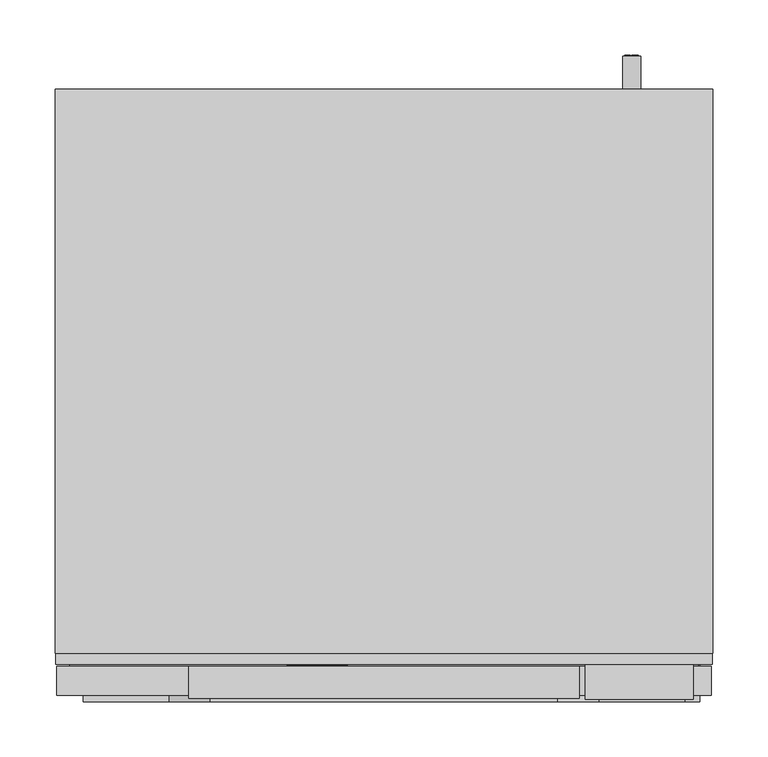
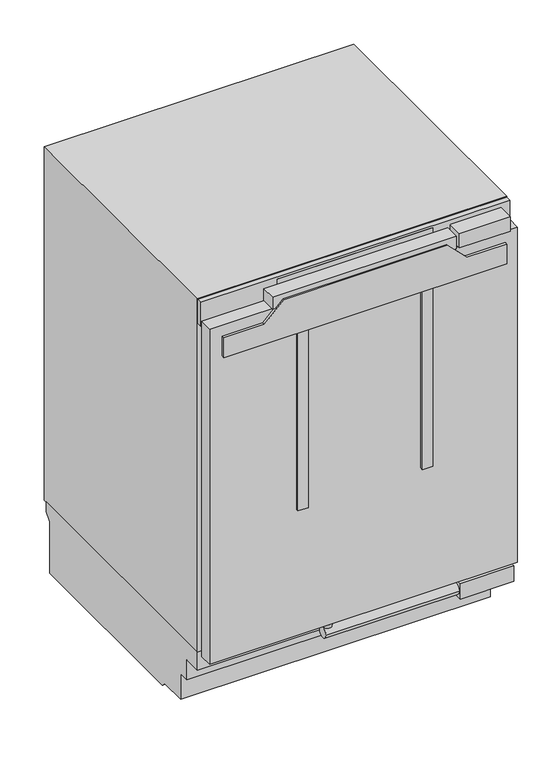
"""IFC4 building model written with IfcOpenShell, lengths in millimetres: proxy geometry, 12519190_EU1_KU7135C : 36713510_EU1_12519190_KU7135C."""

import ifcopenshell
import ifcopenshell.guid

model = None  # the IFC model being written
_history = None  # IfcOwnerHistory: only IFC2X3 demands one
_inside = {}  # id of a spatial element -> (the spatial element, [elements in it])
_under = {}  # id of a project, library or spatial element -> (it, [spatial elements below it])
_declared = {}  # id of a project -> (the project, [libraries it declares])
_typed = {}  # id of a type object -> (the type object, [elements of that type])
_made_of = {}  # id of a material, layer set ... -> (it, [elements and type objects made of it])


def new_model(schema):
    """Start an empty IFC model of exactly this schema.

    Asked for "IFC4X3", IfcOpenShell would pick the latest addendum, in which some entities
    have other attributes; the version numbers below select the first issue.
    IFC2X3 requires an IfcOwnerHistory on every rooted entity: one is made here for all.
    """
    global model, _history
    if schema == "IFC4X3":
        model = ifcopenshell.file(schema_version=(4, 3, 0, 0))
    else:
        model = ifcopenshell.file(schema=schema)
    _inside.clear()
    _under.clear()
    _declared.clear()
    _typed.clear()
    _made_of.clear()
    _history = None
    if model.schema == "IFC2X3":
        org = make("IfcOrganization", Name="unknown")
        user = make(
            "IfcPersonAndOrganization",
            ThePerson=make("IfcPerson", FamilyName="unknown"),
            TheOrganization=org,
        )
        app = make(
            "IfcApplication",
            ApplicationDeveloper=org,
            Version="unknown",
            ApplicationFullName="unknown",
            ApplicationIdentifier="unknown",
        )
        _history = make(
            "IfcOwnerHistory",
            OwningUser=user,
            OwningApplication=app,
            ChangeAction="ADDED",
            CreationDate=0,
        )
    return model


def make(cls, **values):
    """One entity of the class cls with the attributes given. An attribute that is None is left unset."""
    return model.create_entity(
        cls, **{name: value for name, value in values.items() if value is not None}
    )


def rooted(cls, **values):
    """An entity with a GlobalId (a new one), such as an element, a storey or a relation."""
    return make(cls, GlobalId=ifcopenshell.guid.new(), OwnerHistory=_history, **values)


def si_unit(unit_type, name, prefix=None):
    """IfcSIUnit, for example si_unit("LENGTHUNIT", "METRE", prefix="MILLI")."""
    return make("IfcSIUnit", UnitType=unit_type, Prefix=prefix, Name=name)


def assignment(units):
    """IfcUnitAssignment: the units of a project."""
    return None if units is None else make("IfcUnitAssignment", Units=units)


def point(xyz):
    """IfcCartesianPoint."""
    return None if xyz is None else make("IfcCartesianPoint", Coordinates=xyz)


def direction(xyz):
    """IfcDirection."""
    return None if xyz is None else make("IfcDirection", DirectionRatios=xyz)


def frame(location, z_axis=None, x_axis=None):
    """IfcAxis2Placement3D, a coordinate frame: its origin and axes. An axis left out is left unset."""
    return make(
        "IfcAxis2Placement3D",
        Location=point(location),
        Axis=direction(z_axis),
        RefDirection=direction(x_axis),
    )


def frame_2d(location, x_axis=None):
    """IfcAxis2Placement2D, a coordinate frame in the plane: its origin and x axis."""
    return make(
        "IfcAxis2Placement2D", Location=point(location), RefDirection=direction(x_axis)
    )


def origin():
    """The frame at (0, 0, 0) with its axes left unset."""
    return frame((0.0, 0.0, 0.0))


def origin_with_axes():
    """The frame at (0, 0, 0) with the z axis (0, 0, 1) and the x axis (1, 0, 0) written out."""
    return frame((0.0, 0.0, 0.0), z_axis=(0.0, 0.0, 1.0), x_axis=(1.0, 0.0, 0.0))


def place(relative_to, where):
    """IfcLocalPlacement: puts the frame where relative to a parent placement (None: the world)."""
    return make(
        "IfcLocalPlacement", PlacementRelTo=relative_to, RelativePlacement=where
    )


def context(
    kind, dimensions, precision=None, world=None, true_north=None, identifier=None
):
    """IfcGeometricRepresentationContext, for example the 3D "Model" context."""
    return make(
        "IfcGeometricRepresentationContext",
        ContextIdentifier=identifier,
        ContextType=kind,
        CoordinateSpaceDimension=dimensions,
        Precision=precision,
        WorldCoordinateSystem=world,
        TrueNorth=true_north,
    )


def project(units=None, contexts=None):
    """IfcProject with its units and contexts."""
    return rooted(
        "IfcProject",
        Name="project",
        RepresentationContexts=contexts,
        UnitsInContext=assignment(units),
    )


def spatial(cls, under=None, at=None, **own):
    """A site, building, storey or space (cls), placed at a placement, below another one or the project."""
    s = rooted(cls, ObjectPlacement=at, **own)
    if under is not None:
        _under.setdefault(under.id(), (under, []))[1].append(s)
    return s


def polyline(points):
    """IfcPolyline through the points."""
    return make("IfcPolyline", Points=[point(p) for p in points])


def circle_curve(where, radius):
    """IfcCircle in the frame where."""
    return make("IfcCircle", Position=where, Radius=radius)


def ellipse_curve(where, semi_axis1, semi_axis2):
    """IfcEllipse in the frame where."""
    return make(
        "IfcEllipse", Position=where, SemiAxis1=semi_axis1, SemiAxis2=semi_axis2
    )


def trimmed(basis, trim1, trim2, sense, master):
    """IfcTrimmedCurve: the piece of a basis curve between two trims."""
    return make(
        "IfcTrimmedCurve",
        BasisCurve=basis,
        Trim1=trim1,
        Trim2=trim2,
        SenseAgreement=sense,
        MasterRepresentation=master,
    )


def segment(curve, same_sense, transition):
    """IfcCompositeCurveSegment."""
    return make(
        "IfcCompositeCurveSegment",
        Transition=transition,
        SameSense=same_sense,
        ParentCurve=curve,
    )


def composite_curve(segments, self_intersect=None):
    """IfcCompositeCurve: segments joined end to end."""
    return make("IfcCompositeCurve", Segments=segments, SelfIntersect=self_intersect)


def outline(outer, holes=None, kind="AREA"):
    """IfcArbitraryClosedProfileDef: a profile drawn as a closed curve; with holes, ...WithVoids."""
    if holes is None:
        return make("IfcArbitraryClosedProfileDef", ProfileType=kind, OuterCurve=outer)
    return make(
        "IfcArbitraryProfileDefWithVoids",
        ProfileType=kind,
        OuterCurve=outer,
        InnerCurves=holes,
    )


def extrude(swept, where, along, depth):
    """IfcExtrudedAreaSolid: the profile swept, set in the frame where, extruded along a direction by depth."""
    return make(
        "IfcExtrudedAreaSolid",
        SweptArea=swept,
        Position=where,
        ExtrudedDirection=direction(along),
        Depth=depth,
    )


def faces_of(points, faces, orient=None, outer=None):
    """IfcFace entities. A face is a list of loops; a loop is a list of indices into points, from 0.

    orient and outer hold one flag for each loop. By default every Orientation is true, the
    first loop of a face is its IfcFaceOuterBound and the others are IfcFaceBound.
    """
    made = []
    for i, loops in enumerate(faces):
        bounds = []
        for j, loop in enumerate(loops):
            is_outer = j == 0 if outer is None else outer[i][j]
            bounds.append(
                make(
                    "IfcFaceOuterBound" if is_outer else "IfcFaceBound",
                    Bound=make("IfcPolyLoop", Polygon=[points[k] for k in loop]),
                    Orientation=True if orient is None else orient[i][j],
                )
            )
        made.append(make("IfcFace", Bounds=bounds))
    return made


def faceted_brep(points, faces, orient=None, outer=None, voids=None):
    """IfcFacetedBrep: a solid bounded by flat faces; with voids (closed shells), ...WithVoids."""
    shared = [point(p) for p in points]
    hull = make("IfcClosedShell", CfsFaces=faces_of(shared, faces, orient, outer))
    if voids is None:
        return make("IfcFacetedBrep", Outer=hull)
    return make(
        "IfcFacetedBrepWithVoids",
        Outer=hull,
        Voids=[
            make(cls, CfsFaces=faces_of(shared, fs, o, b)) for cls, fs, o, b in voids
        ],
    )


def shape(context_of_items, identifier, shape_type, items):
    """IfcShapeRepresentation: the items that make up one representation, for example the "Body"."""
    return make(
        "IfcShapeRepresentation",
        ContextOfItems=context_of_items,
        RepresentationIdentifier=identifier,
        RepresentationType=shape_type,
        Items=items,
    )


def source(mapping_origin, context_of_items, identifier, shape_type, items):
    """IfcRepresentationMap: a shape defined once, which mapped items show again and again."""
    return make(
        "IfcRepresentationMap",
        MappingOrigin=mapping_origin,
        MappedRepresentation=shape(context_of_items, identifier, shape_type, items),
    )


def transform(
    local_origin,
    x_axis=None,
    y_axis=None,
    z_axis=None,
    scale=None,
    scale2=None,
    scale3=None,
    uniform=True,
):
    """IfcCartesianTransformationOperator3D, or its non-uniform kind. x_axis, y_axis, z_axis: its Axis1, 2, 3."""
    if uniform:
        return make(
            "IfcCartesianTransformationOperator3D",
            Axis1=direction(x_axis),
            Axis2=direction(y_axis),
            LocalOrigin=point(local_origin),
            Scale=scale,
            Axis3=direction(z_axis),
        )
    return make(
        "IfcCartesianTransformationOperator3DnonUniform",
        Axis1=direction(x_axis),
        Axis2=direction(y_axis),
        LocalOrigin=point(local_origin),
        Scale=scale,
        Axis3=direction(z_axis),
        Scale2=scale2,
        Scale3=scale3,
    )


def mapped(mapping_source, mapping_target):
    """IfcMappedItem: shows the shape of a source again, moved by a transform."""
    return make(
        "IfcMappedItem", MappingSource=mapping_source, MappingTarget=mapping_target
    )


def made_of(thing, what):
    """Note that an element or type object is made of a material, layer set ...; save() writes the relation."""
    if what is not None:
        _made_of.setdefault(what.id(), (what, []))[1].append(thing)
    return thing


def element(
    cls,
    number,
    at=None,
    inside=None,
    cuts=None,
    type_object=None,
    material=None,
    context=None,
    identifier="Body",
    shape_type=None,
    held_by="IfcProductDefinitionShape",
    body=None,
    shapes=None,
    **own,
):
    """One element of the class cls, such as IfcWall. Its Tag is "e" and its number.

    at: its placement. inside: the storey or other place that contains it. cuts: it is an
    opening in that element (IfcRelVoidsElement). A single representation is given by context,
    identifier, shape_type and body (its items); several are given by shapes. held_by: the class
    of the entity that holds the representations. save() writes the other relations.
    """
    e = rooted(cls, Tag="e%d" % number, ObjectPlacement=at, **own)
    if body is not None:
        shapes = [shape(context, identifier, shape_type, body)]
    if shapes is not None:
        e.Representation = make(held_by, Representations=shapes)
    if inside is not None:
        _inside.setdefault(inside.id(), (inside, []))[1].append(e)
    if cuts is not None:
        rooted(
            "IfcRelVoidsElement", RelatingBuildingElement=cuts, RelatedOpeningElement=e
        )
    if type_object is not None:
        _typed.setdefault(type_object.id(), (type_object, []))[1].append(e)
    return made_of(e, material)


def aggregate(whole, parts):
    """IfcRelAggregates: a whole, such as a stair, and the parts it consists of."""
    return rooted("IfcRelAggregates", RelatingObject=whole, RelatedObjects=parts)


def save(model, path):
    """Write the relations noted so far, then the file.

    IfcRelAggregates (storeys below a building ...), IfcRelContainedInSpatialStructure (elements
    in a storey), IfcRelDefinesByType, IfcRelAssociatesMaterial and IfcRelDeclares: one each for
    every whole, place, type object, material and project.
    """
    for whole, parts in _under.values():
        aggregate(whole, parts)
    for where, things in _inside.values():
        rooted(
            "IfcRelContainedInSpatialStructure",
            RelatedElements=things,
            RelatingStructure=where,
        )
    for kind, things in _typed.values():
        rooted("IfcRelDefinesByType", RelatedObjects=things, RelatingType=kind)
    for what, things in _made_of.values():
        rooted("IfcRelAssociatesMaterial", RelatedObjects=things, RelatingMaterial=what)
    for by, libraries in _declared.values():
        rooted("IfcRelDeclares", RelatingContext=by, RelatedDefinitions=libraries)
    model.write(path)


def plane_surface(at):
    """IfcPlane: the flat surface through the origin of the frame at, square to its z axis."""
    return make("IfcPlane", Position=at)


def cylinder_surface(at, radius):
    """IfcCylindricalSurface: all points at the distance radius from the z axis of the frame at."""
    return make("IfcCylindricalSurface", Position=at, Radius=radius)


def revolved_surface(curve, axis_point, axis_direction):
    """IfcSurfaceOfRevolution: the curve turned about the line through axis_point along axis_direction."""
    return make(
        "IfcSurfaceOfRevolution",
        SweptCurve=make("IfcArbitraryOpenProfileDef", ProfileType="CURVE", Curve=curve),
        AxisPosition=make("IfcAxis1Placement", Location=point(axis_point), Axis=direction(axis_direction)),
    )


def extruded_surface(curve, direction_of_extrusion, depth):
    """IfcSurfaceOfLinearExtrusion: the curve pushed along a direction by depth."""
    return make(
        "IfcSurfaceOfLinearExtrusion",
        SweptCurve=make("IfcArbitraryOpenProfileDef", ProfileType="CURVE", Curve=curve),
        ExtrudedDirection=direction(direction_of_extrusion),
        Depth=depth,
    )


def advanced_brep(points, edges, surfaces, faces):
    """IfcAdvancedBrep: a solid bounded by faces that lie on surfaces and meet in shared edges.

    An edge is (start, end): straight between two places in points (the first is 0);
    or (start, end, curve); or (start, end, curve, False) where it runs against its curve.
    A face is (place in surfaces, loops), or (place, loops, False) where it looks against
    its surface's normal. A loop lists edges by number (the first is 1), with a minus sign
    where the edge is run from its end to its start. The first loop is the outer one.
    """
    corners = [point(p) for p in points]
    vertices = [make("IfcVertexPoint", VertexGeometry=c) for c in corners]
    made = []
    for start, end, *more in edges:
        made.append(
            make(
                "IfcEdgeCurve",
                EdgeStart=vertices[start],
                EdgeEnd=vertices[end],
                EdgeGeometry=more[0] if more else make("IfcPolyline", Points=[corners[start], corners[end]]),
                SameSense=more[1] if len(more) > 1 else True,
            )
        )
    hull = []
    for where, loops, *sense in faces:
        bounds = []
        for j, loop in enumerate(loops):
            ring = [make("IfcOrientedEdge", EdgeElement=made[abs(k) - 1], Orientation=k > 0) for k in loop]
            bounds.append(
                make(
                    "IfcFaceOuterBound" if j == 0 else "IfcFaceBound",
                    Bound=make("IfcEdgeLoop", EdgeList=ring),
                    Orientation=True,
                )
            )
        hull.append(make("IfcAdvancedFace", Bounds=bounds, FaceSurface=surfaces[where], SameSense=sense[0] if sense else True))
    return make("IfcAdvancedBrep", Outer=make("IfcClosedShell", CfsFaces=hull))


def specialty_equipment_7cf81c36(model_context):
    return source(origin(), model_context, "Body", "SolidModel", [
        extrude(outline(polyline([(835.9349293, -88.017), (835.9349293, -86.928), (829.9139293, -86.928), (829.9139293, -88.017), (828.4019293, -88.017), (828.4019293, -84.057), (829.9139293, -84.057), (829.9139293, -85.137), (833.7360541, -85.137), (828.4019293, -81.114), (833.8421516, -77.073), (829.9139293, -77.073), (829.9139293, -78.18), (828.4019293, -78.18), (828.4019293, -70.998), (829.9139293, -70.998), (829.9139293, -72.141), (835.9349293, -72.141), (835.9349293, -70.998), (837.4019293, -70.998), (837.4019293, -76.479), (834.0269293, -79.107), (837.4019293, -81.744), (837.4019293, -88.017), (835.9349293, -88.017)])), frame((0.0, 33.1, 0.0), z_axis=(0.0, 1.0, 0.0), x_axis=(0.0, 0.0, 1.0)), (0.0, 0.0, 1.0), 1.0),
        extrude(outline(polyline([(835.9349293, -51.495), (835.9349293, -50.415), (829.9139293, -50.415), (829.9139293, -51.495), (828.4019293, -51.495), (828.4019293, -44.196), (829.9139293, -44.196), (829.9139293, -45.303), (837.4019293, -45.303), (837.4019293, -51.495), (835.9349293, -51.495)])), frame((0.0, 33.1, 0.0), z_axis=(0.0, 1.0, 0.0), x_axis=(0.0, 0.0, 1.0)), (0.0, 0.0, 1.0), 1.0),
        extrude(outline(polyline([(836.8709293, -67.857), (835.4129293, -67.173), (836.8349293, -64.122), (838.2929293, -64.797), (836.8709293, -67.857)])), frame((0.0, 33.1, 0.0), z_axis=(0.0, 1.0, 0.0), x_axis=(0.0, 0.0, 1.0)), (0.0, 0.0, 1.0), 1.0),
        extrude(outline(polyline([(835.2149293, -70.08), (833.6039293, -70.08), (833.6039293, -69.009), (829.9139293, -69.009), (829.9139293, -70.08), (828.4019293, -70.08), (828.4019293, -62.979), (829.9139293, -62.979), (829.9139293, -64.023), (835.2149293, -64.023), (835.2149293, -70.08)])), frame((0.0, 33.1, 0.0), z_axis=(0.0, 1.0, 0.0), x_axis=(0.0, 0.0, 1.0)), (0.0, 0.0, 1.0), 1.0),
        advanced_brep(
        [(-58.02, 33.1, 830.5349293), (-58.02, 33.1, 831.4439293), (-51.999, 33.1, 831.4439293), (-62.475, 33.1, 831.4439293), (-60.0, 33.1, 828.4019293), (-52.152, 33.1, 830.5349293), (-54.87, 33.1, 830.5349293), (-57.012, 33.1, 829.5269293), (-58.02, 33.1, 832.5959293), (-58.02, 33.1, 833.5769293), (-56.481, 33.1, 833.5769293), (-56.481, 33.1, 832.5959293), (-58.02, 34.1, 830.5349293), (-57.012, 34.1, 829.5269293), (-54.87, 34.1, 830.5349293), (-52.152, 34.1, 830.5349293), (-60.0, 34.1, 828.4019293), (-62.475, 34.1, 831.4439293), (-51.999, 34.1, 831.4439293), (-58.02, 34.1, 831.4439293), (-58.02, 34.1, 832.5959293), (-56.481, 34.1, 832.5959293), (-56.481, 34.1, 833.5769293), (-58.02, 34.1, 833.5769293)],
        [
            (0, 1),
            (1, 2),
            (2, 3, ellipse_curve(frame((-57.237, 33.1, 831.4439293), z_axis=(0.0, -1.0, 0.0), x_axis=(-1.0, 0.0, 0.0)), 5.238, 4.329)),
            (3, 4, circle_curve(frame((-58.9919509, 33.1, 831.7499293), z_axis=(0.0, -1.0, 0.0), x_axis=(0.0, 0.0, -1.0)), 3.4964649)),
            (4, 5, circle_curve(frame((-57.3418572, 33.1, 834.1259293), z_axis=(0.0, -1.0, 0.0), x_axis=(0.0, 0.0, -1.0)), 6.3110933)),
            (5, 6),
            (6, 7, circle_curve(frame((-56.5720588, 33.1, 831.3719293), z_axis=(0.0, 1.0, 0.0), x_axis=(0.0, 0.0, -1.0)), 1.896727)),
            (7, 0, circle_curve(frame((-57.012, 33.1, 830.5349293), z_axis=(0.0, 1.0, 0.0), x_axis=(0.0, 0.0, -1.0)), 1.008)),
            (8, 9),
            (9, 10, circle_curve(frame((-57.2505, 33.1, 833.5769293), z_axis=(0.0, 1.0, 0.0), x_axis=(0.0, 0.0, -1.0)), 0.7695)),
            (10, 11),
            (11, 8),
            (12, 13, circle_curve(frame((-57.012, 34.1, 830.5349293), z_axis=(0.0, -1.0, 0.0), x_axis=(0.0, 0.0, -1.0)), 1.008)),
            (13, 14, circle_curve(frame((-56.5720588, 34.1, 831.3719293), z_axis=(0.0, -1.0, 0.0), x_axis=(0.0, 0.0, -1.0)), 1.896727)),
            (14, 15),
            (15, 16, circle_curve(frame((-57.3418572, 34.1, 834.1259293), z_axis=(0.0, 1.0, 0.0), x_axis=(0.0, 0.0, -1.0)), 6.3110933)),
            (16, 17, circle_curve(frame((-58.9919509, 34.1, 831.7499293), z_axis=(0.0, 1.0, 0.0), x_axis=(0.0, 0.0, -1.0)), 3.4964649)),
            (17, 18, ellipse_curve(frame((-57.237, 34.1, 831.4439293), z_axis=(0.0, 1.0, 0.0), x_axis=(-1.0, 0.0, 0.0)), 5.238, 4.329)),
            (18, 19),
            (19, 12),
            (20, 21),
            (21, 22),
            (22, 23, circle_curve(frame((-57.2505, 34.1, 833.5769293), z_axis=(0.0, -1.0, 0.0), x_axis=(0.0, 0.0, -1.0)), 0.7695)),
            (23, 20),
            (0, 12),
            (19, 1),
            (18, 2),
            (5, 15),
            (14, 6),
            (17, 3),
            (13, 7),
            (16, 4),
            (8, 20),
            (23, 9),
            (22, 10),
            (21, 11),
        ],
        [
            plane_surface(frame((-58.02, 33.1, 831.4439293), z_axis=(0.0, -1.0, 0.0), x_axis=(0.0, 0.0, 1.0))),
            plane_surface(frame((-58.02, 34.1, 831.4439293), z_axis=(0.0, 1.0, 0.0), x_axis=(0.0, 0.0, -1.0))),
            plane_surface(frame((-58.02, 33.1, 830.5349293), z_axis=(1.0, 0.0, 0.0), x_axis=(0.0, 1.0, 0.0))),
            plane_surface(frame((-58.02, 33.1, 831.4439293), z_axis=(0.0, 0.0, -1.0), x_axis=(0.0, 1.0, 0.0))),
            plane_surface(frame((-52.152, 33.1, 830.5349293), z_axis=(0.0, 0.0, 1.0), x_axis=(0.0, 1.0, 0.0))),
            extruded_surface(trimmed(ellipse_curve(frame((-57.237, 35.1, 831.4439293), z_axis=(0.0, -1.0, 0.0), x_axis=(-1.0, 0.0, 0.0)), 5.238, 4.329), [point((-51.999, 35.1, 831.4439293))], [point((-62.475, 35.1, 831.4439293))], True, "CARTESIAN"), (0.0, -1.0, 0.0), 1.0),
            revolved_surface(polyline([(-56.5720588, 34.1, 829.4752023), (-56.5720588, 33.1, 829.4752023)]), (-56.5720588, 34.1, 831.3719293), (0.0, 1.0, 0.0)),
            revolved_surface(polyline([(-57.012, 34.1, 829.5269293), (-57.012, 33.1, 829.5269293)]), (-57.012, 34.1, 830.5349293), (0.0, 1.0, 0.0)),
            cylinder_surface(frame((-58.9919509, 34.1, 831.7499293), z_axis=(0.0, -1.0, 0.0), x_axis=(0.0, 0.0, -1.0)), 3.4964649),
            cylinder_surface(frame((-57.3418572, 34.1, 834.1259293), z_axis=(0.0, -1.0, 0.0), x_axis=(0.0, 0.0, -1.0)), 6.3110933),
            plane_surface(frame((-58.02, 33.1, 832.5959293), z_axis=(1.0, 0.0, 0.0), x_axis=(0.0, 1.0, 0.0))),
            revolved_surface(polyline([(-57.2505, 34.1, 832.8074293), (-57.2505, 33.1, 832.8074293)]), (-57.2505, 34.1, 833.5769293), (0.0, 1.0, 0.0)),
            plane_surface(frame((-56.481, 33.1, 833.5769293), z_axis=(-1.0, 0.0, 0.0), x_axis=(0.0, 1.0, 0.0))),
            plane_surface(frame((-56.481, 33.1, 832.5959293), z_axis=(0.0, 0.0, 1.0), x_axis=(0.0, 1.0, 0.0))),
        ],
        [
            (0, [[1, 2, 3, 4, 5, 6, 7, 8], [9, 10, 11, 12]]),
            (1, [[13, 14, 15, 16, 17, 18, 19, 20], [21, 22, 23, 24]]),
            (2, [[-1, 25, -20, 26]]),
            (3, [[-2, -26, -19, 27]]),
            (4, [[-6, 28, -15, 29]]),
            (5, [[-3, -27, -18, 30]]),
            (6, [[-7, -29, -14, 31]]),
            (7, [[-8, -31, -13, -25]]),
            (8, [[-4, -30, -17, 32]]),
            (9, [[-5, -32, -16, -28]]),
            (10, [[-9, 33, -24, 34]]),
            (11, [[-10, -34, -23, 35]]),
            (12, [[-11, -35, -22, 36]]),
            (13, [[-12, -36, -21, -33]]),
        ],
    ),
        advanced_brep(
        [(-39.237, 33.1, 830.5349293), (-39.237, 33.1, 831.4439293), (-33.216, 33.1, 831.4439293), (-43.692, 33.1, 831.4439293), (-41.217, 33.1, 828.4019293), (-33.369, 33.1, 830.5349293), (-36.087, 33.1, 830.5349293), (-38.229, 33.1, 829.5269293), (-39.237, 33.1, 832.5959293), (-39.237, 33.1, 833.5769293), (-37.698, 33.1, 833.5769293), (-37.698, 33.1, 832.5959293), (-39.237, 34.1, 830.5349293), (-38.229, 34.1, 829.5269293), (-36.087, 34.1, 830.5349293), (-33.369, 34.1, 830.5349293), (-41.217, 34.1, 828.4019293), (-43.692, 34.1, 831.4439293), (-33.216, 34.1, 831.4439293), (-39.237, 34.1, 831.4439293), (-39.237, 34.1, 832.5959293), (-37.698, 34.1, 832.5959293), (-37.698, 34.1, 833.5769293), (-39.237, 34.1, 833.5769293)],
        [
            (0, 1),
            (1, 2),
            (2, 3, ellipse_curve(frame((-38.454, 33.1, 831.4439293), z_axis=(0.0, -1.0, 0.0), x_axis=(-1.0, 0.0, 0.0)), 5.238, 4.329)),
            (3, 4, circle_curve(frame((-40.2089509, 33.1, 831.7499293), z_axis=(0.0, -1.0, 0.0), x_axis=(0.0, 0.0, -1.0)), 3.4964649)),
            (4, 5, circle_curve(frame((-38.5588572, 33.1, 834.1259293), z_axis=(0.0, -1.0, 0.0), x_axis=(0.0, 0.0, -1.0)), 6.3110933)),
            (5, 6),
            (6, 7, circle_curve(frame((-37.7890588, 33.1, 831.3719293), z_axis=(0.0, 1.0, 0.0), x_axis=(0.0, 0.0, -1.0)), 1.896727)),
            (7, 0, circle_curve(frame((-38.229, 33.1, 830.5349293), z_axis=(0.0, 1.0, 0.0), x_axis=(0.0, 0.0, -1.0)), 1.008)),
            (8, 9),
            (9, 10, circle_curve(frame((-38.4675, 33.1, 833.5769293), z_axis=(0.0, 1.0, 0.0), x_axis=(0.0, 0.0, -1.0)), 0.7695)),
            (10, 11),
            (11, 8),
            (12, 13, circle_curve(frame((-38.229, 34.1, 830.5349293), z_axis=(0.0, -1.0, 0.0), x_axis=(0.0, 0.0, -1.0)), 1.008)),
            (13, 14, circle_curve(frame((-37.7890588, 34.1, 831.3719293), z_axis=(0.0, -1.0, 0.0), x_axis=(0.0, 0.0, -1.0)), 1.896727)),
            (14, 15),
            (15, 16, circle_curve(frame((-38.5588572, 34.1, 834.1259293), z_axis=(0.0, 1.0, 0.0), x_axis=(0.0, 0.0, -1.0)), 6.3110933)),
            (16, 17, circle_curve(frame((-40.2089509, 34.1, 831.7499293), z_axis=(0.0, 1.0, 0.0), x_axis=(0.0, 0.0, -1.0)), 3.4964649)),
            (17, 18, ellipse_curve(frame((-38.454, 34.1, 831.4439293), z_axis=(0.0, 1.0, 0.0), x_axis=(-1.0, 0.0, 0.0)), 5.238, 4.329)),
            (18, 19),
            (19, 12),
            (20, 21),
            (21, 22),
            (22, 23, circle_curve(frame((-38.4675, 34.1, 833.5769293), z_axis=(0.0, -1.0, 0.0), x_axis=(0.0, 0.0, -1.0)), 0.7695)),
            (23, 20),
            (0, 12),
            (19, 1),
            (18, 2),
            (5, 15),
            (14, 6),
            (17, 3),
            (13, 7),
            (16, 4),
            (8, 20),
            (23, 9),
            (22, 10),
            (21, 11),
        ],
        [
            plane_surface(frame((-39.237, 33.1, 831.4439293), z_axis=(0.0, -1.0, 0.0), x_axis=(0.0, 0.0, 1.0))),
            plane_surface(frame((-39.237, 34.1, 831.4439293), z_axis=(0.0, 1.0, 0.0), x_axis=(0.0, 0.0, -1.0))),
            plane_surface(frame((-39.237, 33.1, 830.5349293), z_axis=(1.0, 0.0, 0.0), x_axis=(0.0, 1.0, 0.0))),
            plane_surface(frame((-39.237, 33.1, 831.4439293), z_axis=(0.0, 0.0, -1.0), x_axis=(0.0, 1.0, 0.0))),
            plane_surface(frame((-33.369, 33.1, 830.5349293), z_axis=(0.0, 0.0, 1.0), x_axis=(0.0, 1.0, 0.0))),
            extruded_surface(trimmed(ellipse_curve(frame((-38.454, 35.1, 831.4439293), z_axis=(0.0, -1.0, 0.0), x_axis=(-1.0, 0.0, 0.0)), 5.238, 4.329), [point((-33.216, 35.1, 831.4439293))], [point((-43.692, 35.1, 831.4439293))], True, "CARTESIAN"), (0.0, -1.0, 0.0), 1.0),
            revolved_surface(polyline([(-37.7890588, 34.1, 829.4752023), (-37.7890588, 33.1, 829.4752023)]), (-37.7890588, 34.1, 831.3719293), (0.0, 1.0, 0.0)),
            revolved_surface(polyline([(-38.229, 34.1, 829.5269293), (-38.229, 33.1, 829.5269293)]), (-38.229, 34.1, 830.5349293), (0.0, 1.0, 0.0)),
            cylinder_surface(frame((-40.2089509, 34.1, 831.7499293), z_axis=(0.0, -1.0, 0.0), x_axis=(0.0, 0.0, -1.0)), 3.4964649),
            cylinder_surface(frame((-38.5588572, 34.1, 834.1259293), z_axis=(0.0, -1.0, 0.0), x_axis=(0.0, 0.0, -1.0)), 6.3110933),
            plane_surface(frame((-39.237, 33.1, 832.5959293), z_axis=(1.0, 0.0, 0.0), x_axis=(0.0, 1.0, 0.0))),
            revolved_surface(polyline([(-38.4675, 34.1, 832.8074293), (-38.4675, 33.1, 832.8074293)]), (-38.4675, 34.1, 833.5769293), (0.0, 1.0, 0.0)),
            plane_surface(frame((-37.698, 33.1, 833.5769293), z_axis=(-1.0, 0.0, 0.0), x_axis=(0.0, 1.0, 0.0))),
            plane_surface(frame((-37.698, 33.1, 832.5959293), z_axis=(0.0, 0.0, 1.0), x_axis=(0.0, 1.0, 0.0))),
        ],
        [
            (0, [[1, 2, 3, 4, 5, 6, 7, 8], [9, 10, 11, 12]]),
            (1, [[13, 14, 15, 16, 17, 18, 19, 20], [21, 22, 23, 24]]),
            (2, [[-1, 25, -20, 26]]),
            (3, [[-2, -26, -19, 27]]),
            (4, [[-6, 28, -15, 29]]),
            (5, [[-3, -27, -18, 30]]),
            (6, [[-7, -29, -14, 31]]),
            (7, [[-8, -31, -13, -25]]),
            (8, [[-4, -30, -17, 32]]),
            (9, [[-5, -32, -16, -28]]),
            (10, [[-9, 33, -24, 34]]),
            (11, [[-10, -34, -23, 35]]),
            (12, [[-11, -35, -22, 36]]),
            (13, [[-12, -36, -21, -33]]),
        ],
    ),
        extrude(outline(polyline([(150.0048218, 34.0937347), (-150.0048218, 34.0937347), (-150.0048218, 44.0), (150.0048218, 44.0), (150.0048218, 34.0937347)])), frame((0.0, 0.0, 813.2139282), z_axis=(0.0, 0.0, 1.0), x_axis=(1.0, 0.0, 0.0)), (0.0, 0.0, 1.0), 39.9850464),
        extrude(outline(polyline([(857.6989746, 298.0), (857.6989746, -298.0), (808.7051238, -298.0), (808.7051238, 298.0), (857.6989746, 298.0)]), holes=[polyline([(853.1989746, -150.0048218), (853.1989746, 150.0048218), (813.2139282, 150.0048218), (813.2139282, -150.0048218), (853.1989746, -150.0048218)])]), frame((0.0, 34.0937347, 0.0), z_axis=(0.0, 1.0, 0.0), x_axis=(0.0, 0.0, 1.0)), (0.0, 0.0, 1.0), 9.9062653),
        faceted_brep([(-298.5, 550.1, 137.8999939), (-298.5, 550.1, 117.6051112), (-298.5, 537.6, 105.1051112), (-298.5, 537.6, 0.0), (-298.5, 161.2567793, 0.0), (-298.5, 152.9391747, 8.3176046), (-298.5, 100.0, 8.3176046), (-298.5, 100.0, 60.7725754), (-298.5, 79.0216446, 60.7725754), (-298.5, 79.0216446, 101.8184894), (-298.5, 44.0, 101.8184894), (-298.5, 44.0, 137.8999939), (298.5, 550.1, 137.8999939), (298.5, 44.0, 137.8999939), (298.5, 44.0, 101.8184894), (298.5, 79.0216446, 101.8184894), (298.5, 79.0216446, 60.7725754), (298.5, 100.0, 60.7725754), (298.5, 100.0, 8.3176046), (298.5, 152.9391747, 8.3176046), (298.5, 161.2567793, 0.0), (298.5, 537.6, 0.0), (298.5, 537.6, 105.1051112), (298.5, 550.1, 117.6051112), (296.7000122, 463.8596389, 0.0), (256.5957336, 463.8596389, 0.0), (256.5957336, 399.1975098, 0.0), (296.7000122, 399.1975098, 0.0), (-296.7000122, 463.8596389, 0.0), (-296.7000122, 399.1975098, 0.0), (-256.5957336, 399.1975098, 0.0), (-256.5957336, 463.8596389, 0.0), (296.7000122, 463.8596389, 8.7371401), (296.7000122, 399.1975098, 8.7371401), (256.5957336, 399.1975098, 8.7371401), (256.5957336, 463.8596389, 8.7371401), (-296.7000122, 463.8596389, 8.7371401), (-256.5957336, 463.8596389, 8.7371401), (-256.5957336, 399.1975098, 8.7371401), (-296.7000122, 399.1975098, 8.7371401)], [[[0, 1, 2, 3, 4, 5, 6, 7, 8, 9, 10, 11]], [[12, 13, 14, 15, 16, 17, 18, 19, 20, 21, 22, 23]], [[0, 11, 13, 12]], [[11, 10, 14, 13]], [[10, 9, 15, 14]], [[9, 8, 16, 15]], [[8, 7, 17, 16]], [[7, 6, 18, 17]], [[6, 5, 19, 18]], [[5, 4, 20, 19]], [[4, 3, 21, 20], [24, 25, 26, 27], [28, 29, 30, 31]], [[3, 2, 22, 21]], [[2, 1, 23, 22]], [[1, 0, 12, 23]], [[32, 33, 34, 35]], [[36, 37, 38, 39]], [[32, 35, 25, 24]], [[35, 34, 26, 25]], [[34, 33, 27, 26]], [[33, 32, 24, 27]], [[36, 39, 29, 28]], [[39, 38, 30, 29]], [[38, 37, 31, 30]], [[37, 36, 28, 31]]]),
        faceted_brep([(298.5, 44.0, 859.0), (298.5, 44.0, 137.8999939), (298.5, 556.2, 137.8999939), (298.5, 556.2, 859.0), (-298.5, 44.0, 859.0), (-298.5, 556.2, 859.0), (-298.5, 556.2, 137.8999939), (-298.5, 44.0, 137.8999939), (263.0, 44.0, 759.0), (263.0, 44.0, 160.0), (-263.0, 44.0, 160.0), (-263.0, 44.0, 759.0), (263.0, 510.8638012, 160.0), (263.0, 510.8638012, 759.0), (-263.0, 510.8638012, 759.0), (-263.0, 510.8638012, 160.0)], [[[0, 1, 2, 3]], [[4, 5, 6, 7]], [[1, 0, 4, 7], [8, 9, 10, 11]], [[2, 1, 7, 6]], [[3, 2, 6, 5]], [[0, 3, 5, 4]], [[12, 13, 14, 15]], [[13, 12, 9, 8]], [[14, 13, 8, 11]], [[15, 14, 11, 10]], [[12, 15, 10, 9]]]),
        extrude(outline(polyline([(263.0, 510.8638012), (263.0, 339.3), (-263.0, 339.3), (-263.0, 510.8638012), (263.0, 510.8638012)])), frame((0.0, 0.0, 160.0), z_axis=(0.0, 0.0, 1.0), x_axis=(1.0, 0.0, 0.0)), (0.0, 0.0, 1.0), 61.8999939),
        extrude(outline(composite_curve([segment(trimmed(circle_curve(frame_2d((-270.8532135, 136.0)), 15.7049948), [point((-286.5582083, 136.0))], [point((-255.1482187, 136.0))], False, "CARTESIAN"), True, "CONTINUOUS"), segment(trimmed(circle_curve(frame_2d((-270.8532135, 136.0)), 15.7049948), [point((-255.1482187, 136.0))], [point((-286.5582083, 136.0))], False, "CARTESIAN"), True, "CONTINUOUS")], self_intersect=False)), origin_with_axes(), (0.0, 0.0, 1.0), 8.3176046),
        extrude(outline(composite_curve([segment(trimmed(circle_curve(frame_2d((270.8532135, 136.0)), 15.7049948), [point((286.5582083, 136.0))], [point((255.1482187, 136.0))], False, "CARTESIAN"), True, "CONTINUOUS"), segment(trimmed(circle_curve(frame_2d((270.8532135, 136.0)), 15.7049948), [point((255.1482187, 136.0))], [point((286.5582083, 136.0))], False, "CARTESIAN"), True, "CONTINUOUS")], self_intersect=False)), origin_with_axes(), (0.0, 0.0, 1.0), 8.3176046),
        extrude(outline(composite_curve([segment(trimmed(circle_curve(frame_2d((-275.822369, 437.7)), 16.0), [point((-291.822369, 437.7))], [point((-259.822369, 437.7))], False, "CARTESIAN"), True, "CONTINUOUS"), segment(trimmed(circle_curve(frame_2d((-275.822369, 437.7)), 16.0), [point((-259.822369, 437.7))], [point((-291.822369, 437.7))], False, "CARTESIAN"), True, "CONTINUOUS")], self_intersect=False)), origin_with_axes(), (0.0, 0.0, 1.0), 8.3176046),
        extrude(outline(composite_curve([segment(trimmed(circle_curve(frame_2d((275.822369, 437.7)), 16.0), [point((259.822369, 437.7))], [point((291.822369, 437.7))], False, "CARTESIAN"), True, "CONTINUOUS"), segment(trimmed(circle_curve(frame_2d((275.822369, 437.7)), 16.0), [point((291.822369, 437.7))], [point((259.822369, 437.7))], False, "CARTESIAN"), True, "CONTINUOUS")], self_intersect=False)), origin_with_axes(), (0.0, 0.0, 1.0), 8.3176046),
        extrude(outline(composite_curve([segment(trimmed(circle_curve(frame_2d((144.2460785, 224.8152695)), 8.0), [point((144.2460785, 216.8152695))], [point((144.2460785, 232.8152695))], False, "CARTESIAN"), True, "CONTINUOUS"), segment(trimmed(circle_curve(frame_2d((144.2460785, 224.8152695)), 8.0), [point((144.2460785, 232.8152695))], [point((144.2460785, 216.8152695))], False, "CARTESIAN"), True, "CONTINUOUS")], self_intersect=False)), frame((0.0, 556.2, 0.0), z_axis=(0.0, 1.0, 0.0), x_axis=(0.0, 0.0, 1.0)), (0.0, 0.0, 1.0), 30.0),
        extrude(outline(polyline([(140.2460785, 230.7170777), (148.2825833, 230.7170777), (148.2825833, 224.9408399), (147.2780202, 224.9408399), (147.2780202, 229.7125146), (144.8921828, 229.7125146), (144.8921828, 225.1919806), (143.8876197, 225.1919806), (143.8876197, 229.7125146), (141.2506416, 229.7125146), (141.2506416, 224.8152695), (140.2460785, 224.8152695), (140.2460785, 230.7170777)])), frame((0.0, 586.2, 0.0), z_axis=(0.0, 1.0, 0.0), x_axis=(0.0, 0.0, 1.0)), (0.0, 0.0, 1.0), 1.0),
        extrude(outline(polyline([(140.2460785, 223.3084248), (148.2825833, 223.3084248), (148.2825833, 222.3038617), (141.2506416, 222.3038617), (141.2506416, 218.2856093), (140.2460785, 218.2856093), (140.2460785, 223.3084248)])), frame((0.0, 586.2, 0.0), z_axis=(0.0, 1.0, 0.0), x_axis=(0.0, 0.0, 1.0)), (0.0, 0.0, 1.0), 1.0),
        extrude(outline(polyline([(280.7999573, 2.0229698), (182.5283813, 2.0229698), (182.5283813, 44.0), (280.7999573, 44.0), (280.7999573, 2.0229698)])), frame((0.0, 0.0, 820.0), z_axis=(0.0, 0.0, 1.0), x_axis=(1.0, 0.0, 0.0)), (0.0, 0.0, 1.0), 28.7067261),
        extrude(outline(polyline([(297.0, 6.0), (-297.0, 6.0), (-297.0, 32.0), (297.0, 32.0), (297.0, 6.0)])), frame((0.0, 0.0, 136.0), z_axis=(0.0, 0.0, 1.0), x_axis=(1.0, 0.0, 0.0)), (0.0, 0.0, 1.0), 684.0),
        extrude(outline(polyline([(285.0, 44.0), (285.0, 32.0), (-285.0, 32.0), (-285.0, 44.0), (285.0, 44.0)])), frame((0.0, 0.0, 148.5030441), z_axis=(0.0, 0.0, 1.0), x_axis=(1.0, 0.0, 0.0)), (0.0, 0.0, 1.0), 655.9969559),
        extrude(outline(polyline([(844.6210938, 177.3252429), (844.6210938, -177.3251393), (820.0, -177.3252429), (820.0, 177.3252429), (844.6210938, 177.3252429)])), frame((0.0, 3.0, 0.0), z_axis=(0.0, 1.0, 0.0), x_axis=(0.0, 0.0, 1.0)), (0.0, 0.0, 1.0), 29.0),
        extrude(outline(composite_curve([segment(trimmed(circle_curve(frame_2d((14.2130013, 118.3500061)), 10.647874), [point((3.5651273, 118.3500061))], [point((24.8608752, 118.3500061))], False, "CARTESIAN"), True, "CONTINUOUS"), segment(trimmed(circle_curve(frame_2d((14.2130013, 118.3500061)), 10.647874), [point((24.8608752, 118.3500061))], [point((3.5651273, 118.3500061))], False, "CARTESIAN"), True, "CONTINUOUS")], self_intersect=False)), frame((-73.8137398, 0.0, 0.0), z_axis=(1.0, 0.0, 0.0), x_axis=(0.0, 1.0, 0.0)), (0.0, 0.0, 1.0), 257.1515813),
        extrude(outline(composite_curve([segment(trimmed(circle_curve(frame_2d((-65.2000504, 14.2130013)), 8.0), [point((-73.2000504, 14.2130013))], [point((-57.2000504, 14.2130013))], False, "CARTESIAN"), True, "CONTINUOUS"), segment(trimmed(circle_curve(frame_2d((-65.2000504, 14.2130013)), 8.0), [point((-57.2000504, 14.2130013))], [point((-73.2000504, 14.2130013))], False, "CARTESIAN"), True, "CONTINUOUS")], self_intersect=False)), frame((0.0, 0.0, 128.9978801), z_axis=(0.0, 0.0, 1.0), x_axis=(1.0, 0.0, 0.0)), (0.0, 0.0, 1.0), 7.0021199),
        extrude(outline(polyline([(286.7815857, 0.0), (183.3378415, 0.0), (183.3378415, 44.0), (286.7815857, 44.0), (286.7815857, 0.0)])), frame((0.0, 0.0, 104.8), z_axis=(0.0, 0.0, 1.0), x_axis=(1.0, 0.0, 0.0)), (0.0, 0.0, 1.0), 31.2),
        extrude(outline(polyline([(797.315066, -195.1876874), (797.315066, -272.9755319), (756.8499888, -272.9755319), (756.8499888, 272.9755319), (797.315066, 272.9755319), (797.315066, 195.1876874), (834.938205, 157.5645484), (834.938205, -157.5645484), (797.315066, -195.1876874)])), frame((0.0, 0.0, 0.0), z_axis=(0.0, 1.0, 0.0), x_axis=(0.0, 0.0, 1.0)), (0.0, 0.0, 1.0), 6.0),
        extrude(outline(polyline([(-110.0, 0.0), (-130.0, 0.0), (-130.0, 6.0), (-110.0, 6.0), (-110.0, 0.0)])), frame((0.0, 0.0, 394.1054382), z_axis=(0.0, 0.0, 1.0), x_axis=(1.0, 0.0, 0.0)), (0.0, 0.0, 1.0), 362.7445505),
        extrude(outline(polyline([(130.0, 0.0), (110.0, 0.0), (110.0, 6.0), (130.0, 6.0), (130.0, 0.0)])), frame((0.0, 0.0, 394.1054382), z_axis=(0.0, 0.0, 1.0), x_axis=(1.0, 0.0, 0.0)), (0.0, 0.0, 1.0), 362.7445505),
    ])


if __name__ == "__main__":
    model = new_model("IFC4")
    model_context = context("Model", 3, world=origin())
    ifc_project = project(units=[si_unit("LENGTHUNIT", "METRE", prefix="MILLI")], contexts=[model_context])
    site = spatial("IfcSite", under=ifc_project)
    building = spatial("IfcBuilding", under=site)
    placement = place(None, origin())
    specialty_equipment_shape = specialty_equipment_7cf81c36(model_context)
    element("IfcBuildingElementProxy", 1, Name="12519190_EU1_KU7135C : 36713510_EU1_12519190_KU7135C", ObjectType="12519190_EU1_KU7135C : 36713510_EU1_12519190_KU7135C", at=placement, inside=building, context=model_context, shape_type="MappedRepresentation", body=[
        mapped(specialty_equipment_shape, transform((0.0, 0.0, 0.0), x_axis=(1.0, 0.0, 0.0), y_axis=(0.0, 1.0, 0.0), z_axis=(0.0, 0.0, 1.0))),
    ])
    save(model, "model.ifc")
